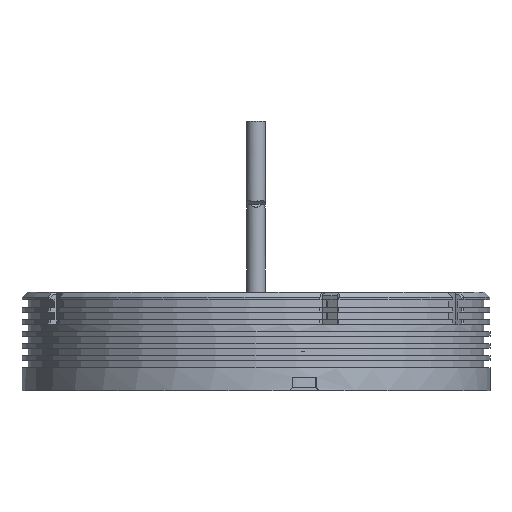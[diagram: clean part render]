
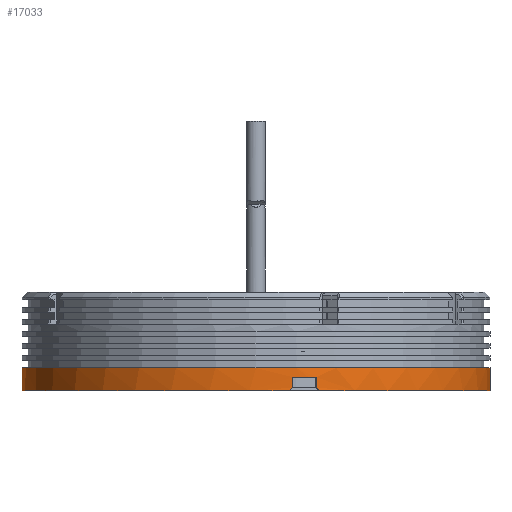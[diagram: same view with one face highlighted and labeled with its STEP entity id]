
A CAD part, front view. The second image highlights one B-rep face of the part: STEP entity #17033.
In plain terms, the highlighted cylindrical face has radius 68 mm (diameter 136 mm), a partial arc.
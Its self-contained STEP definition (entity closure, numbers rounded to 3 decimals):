
#450 = VERTEX_POINT ( 'NONE', #21976 ) ;
#870 = DIRECTION ( 'NONE',  ( 0., 0., -1. ) ) ;
#992 = EDGE_LOOP ( 'NONE', ( #13720, #14133, #9552, #11129, #21548, #1592, #15930, #21775, #8899, #14487 ) ) ;
#1094 = VERTEX_POINT ( 'NONE', #2878 ) ;
#1398 = LINE ( 'NONE', #24883, #20196 ) ;
#1592 = ORIENTED_EDGE ( 'NONE', *, *, #17406, .T. ) ;
#2441 = CARTESIAN_POINT ( 'NONE',  ( 10.7, -67.153, 1. ) ) ;
#2734 = DIRECTION ( 'NONE',  ( -1., 0., 0. ) ) ;
#2797 = LINE ( 'NONE', #8310, #22789 ) ;
#2854 = CARTESIAN_POINT ( 'NONE',  ( -68., 0., 6.7 ) ) ;
#2878 = CARTESIAN_POINT ( 'NONE',  ( 17.538, -65.699, 4. ) ) ;
#3443 = LINE ( 'NONE', #13332, #4874 ) ;
#3484 = EDGE_CURVE ( 'NONE', #11987, #450, #18173, .T. ) ;
#3488 = VERTEX_POINT ( 'NONE', #19424 ) ;
#3590 = VERTEX_POINT ( 'NONE', #12342 ) ;
#3766 = CARTESIAN_POINT ( 'NONE',  ( 17.86, -65.613, 0.667 ) ) ;
#4206 = CARTESIAN_POINT ( 'NONE',  ( 0., 0., 4. ) ) ;
#4309 = AXIS2_PLACEMENT_3D ( 'NONE', #21289, #19355, #9209 ) ;
#4432 = EDGE_CURVE ( 'NONE', #17982, #22860, #23223, .T. ) ;
#4874 = VECTOR ( 'NONE', #9204, 1000. ) ;
#4919 = VERTEX_POINT ( 'NONE', #9396 ) ;
#5708 = LINE ( 'NONE', #8126, #10891 ) ;
#6088 = CARTESIAN_POINT ( 'NONE',  ( 0., 0., 0. ) ) ;
#7191 = CARTESIAN_POINT ( 'NONE',  ( 68., 0., 0. ) ) ;
#7410 = FACE_OUTER_BOUND ( 'NONE', #992, .T. ) ;
#8126 = CARTESIAN_POINT ( 'NONE',  ( 10.7, -67.153, 28.7 ) ) ;
#8310 = CARTESIAN_POINT ( 'NONE',  ( 68., 0., 28.7 ) ) ;
#8373 = CARTESIAN_POINT ( 'NONE',  ( 17.538, -65.699, 1. ) ) ;
#8411 = DIRECTION ( 'NONE',  ( -1., 0., 0. ) ) ;
#8881 = AXIS2_PLACEMENT_3D ( 'NONE', #4206, #22173, #8411 ) ;
#8899 = ORIENTED_EDGE ( 'NONE', *, *, #3484, .T. ) ;
#9204 = DIRECTION ( 'NONE',  ( 0., 0., -1. ) ) ;
#9209 = DIRECTION ( 'NONE',  ( -1., 0., 0. ) ) ;
#9396 = CARTESIAN_POINT ( 'NONE',  ( 10.7, -67.153, 4. ) ) ;
#9552 = ORIENTED_EDGE ( 'NONE', *, *, #23746, .T. ) ;
#9879 = CIRCLE ( 'NONE', #11543, 68. ) ;
#9908 = CARTESIAN_POINT ( 'NONE',  ( 17.538, -65.699, 1. ) ) ;
#10155 = DIRECTION ( 'NONE',  ( -1., 0., 0. ) ) ;
#10295 = CIRCLE ( 'NONE', #16073, 68. ) ;
#10646 = CARTESIAN_POINT ( 'NONE',  ( 9.712, -67.303, 0. ) ) ;
#10891 = VECTOR ( 'NONE', #13556, 1000. ) ;
#11129 = ORIENTED_EDGE ( 'NONE', *, *, #20260, .T. ) ;
#11465 = EDGE_CURVE ( 'NONE', #1094, #11987, #1398, .T. ) ;
#11543 = AXIS2_PLACEMENT_3D ( 'NONE', #6088, #12118, #2734 ) ;
#11844 = CARTESIAN_POINT ( 'NONE',  ( 0., 0., 0. ) ) ;
#11987 = VERTEX_POINT ( 'NONE', #8373 ) ;
#12118 = DIRECTION ( 'NONE',  ( 0., 0., 1. ) ) ;
#12342 = CARTESIAN_POINT ( 'NONE',  ( 10.7, -67.153, 1. ) ) ;
#12422 = EDGE_CURVE ( 'NONE', #450, #25344, #10295, .T. ) ;
#12629 =( BOUNDED_CURVE ( )  B_SPLINE_CURVE ( 3, ( #10646, #12720, #20033, #2441 ),
 .UNSPECIFIED., .F., .T. ) 
 B_SPLINE_CURVE_WITH_KNOTS ( ( 4, 4 ),
 ( 1.556, 1.571 ),
 .UNSPECIFIED. ) 
 CURVE ( )  GEOMETRIC_REPRESENTATION_ITEM ( )  RATIONAL_B_SPLINE_CURVE ( ( 1., 1., 1., 1. ) ) 
 REPRESENTATION_ITEM ( '' )  );
#12720 = CARTESIAN_POINT ( 'NONE',  ( 10.042, -67.255, 0.333 ) ) ;
#13332 = CARTESIAN_POINT ( 'NONE',  ( -68., 0., 28.7 ) ) ;
#13556 = DIRECTION ( 'NONE',  ( 0., 0., 1. ) ) ;
#13720 = ORIENTED_EDGE ( 'NONE', *, *, #18335, .F. ) ;
#14133 = ORIENTED_EDGE ( 'NONE', *, *, #4432, .T. ) ;
#14487 = ORIENTED_EDGE ( 'NONE', *, *, #12422, .T. ) ;
#14707 = DIRECTION ( 'NONE',  ( -1., 0., 0. ) ) ;
#15148 = DIRECTION ( 'NONE',  ( 0., 0., -1. ) ) ;
#15822 = CARTESIAN_POINT ( 'NONE',  ( 18.503, -65.434, 0. ) ) ;
#15930 = ORIENTED_EDGE ( 'NONE', *, *, #24544, .F. ) ;
#16073 = AXIS2_PLACEMENT_3D ( 'NONE', #11844, #18004, #10155 ) ;
#17033 = ADVANCED_FACE ( 'NONE', ( #7410 ), #23204, .T. ) ;
#17406 = EDGE_CURVE ( 'NONE', #3590, #4919, #5708, .T. ) ;
#17757 = CARTESIAN_POINT ( 'NONE',  ( 18.182, -65.525, 0.333 ) ) ;
#17877 = EDGE_CURVE ( 'NONE', #3488, #3590, #12629, .T. ) ;
#17982 = VERTEX_POINT ( 'NONE', #22990 ) ;
#18004 = DIRECTION ( 'NONE',  ( 0., 0., 1. ) ) ;
#18173 =( BOUNDED_CURVE ( )  B_SPLINE_CURVE ( 3, ( #9908, #3766, #17757, #15822 ),
 .UNSPECIFIED., .F., .F. ) 
 B_SPLINE_CURVE_WITH_KNOTS ( ( 4, 4 ),
 ( 4.712, 4.727 ),
 .UNSPECIFIED. ) 
 CURVE ( )  GEOMETRIC_REPRESENTATION_ITEM ( )  RATIONAL_B_SPLINE_CURVE ( ( 1., 1., 1., 1. ) ) 
 REPRESENTATION_ITEM ( '' )  );
#18335 = EDGE_CURVE ( 'NONE', #17982, #25344, #2797, .T. ) ;
#18810 = CARTESIAN_POINT ( 'NONE',  ( 0., 0., 6.7 ) ) ;
#19355 = DIRECTION ( 'NONE',  ( 0., 0., -1. ) ) ;
#19424 = CARTESIAN_POINT ( 'NONE',  ( 9.712, -67.303, 0. ) ) ;
#19955 = CIRCLE ( 'NONE', #8881, 68. ) ;
#20033 = CARTESIAN_POINT ( 'NONE',  ( 10.371, -67.205, 0.667 ) ) ;
#20196 = VECTOR ( 'NONE', #15148, 1000. ) ;
#20260 = EDGE_CURVE ( 'NONE', #21340, #3488, #9879, .T. ) ;
#20777 = AXIS2_PLACEMENT_3D ( 'NONE', #18810, #24187, #14707 ) ;
#21289 = CARTESIAN_POINT ( 'NONE',  ( 0., 0., 28.7 ) ) ;
#21340 = VERTEX_POINT ( 'NONE', #24702 ) ;
#21548 = ORIENTED_EDGE ( 'NONE', *, *, #17877, .T. ) ;
#21775 = ORIENTED_EDGE ( 'NONE', *, *, #11465, .T. ) ;
#21976 = CARTESIAN_POINT ( 'NONE',  ( 18.503, -65.434, 0. ) ) ;
#22173 = DIRECTION ( 'NONE',  ( 0., 0., -1. ) ) ;
#22789 = VECTOR ( 'NONE', #870, 1000. ) ;
#22860 = VERTEX_POINT ( 'NONE', #2854 ) ;
#22990 = CARTESIAN_POINT ( 'NONE',  ( 68., 0., 6.7 ) ) ;
#23204 = CYLINDRICAL_SURFACE ( 'NONE', #4309, 68. ) ;
#23223 = CIRCLE ( 'NONE', #20777, 68. ) ;
#23746 = EDGE_CURVE ( 'NONE', #22860, #21340, #3443, .T. ) ;
#24187 = DIRECTION ( 'NONE',  ( 0., 0., -1. ) ) ;
#24544 = EDGE_CURVE ( 'NONE', #1094, #4919, #19955, .T. ) ;
#24702 = CARTESIAN_POINT ( 'NONE',  ( -68., 0., 0. ) ) ;
#24883 = CARTESIAN_POINT ( 'NONE',  ( 17.538, -65.699, 28.7 ) ) ;
#25344 = VERTEX_POINT ( 'NONE', #7191 ) ;
